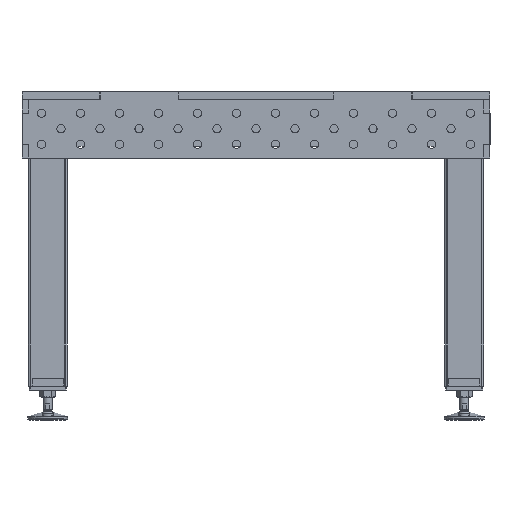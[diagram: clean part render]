
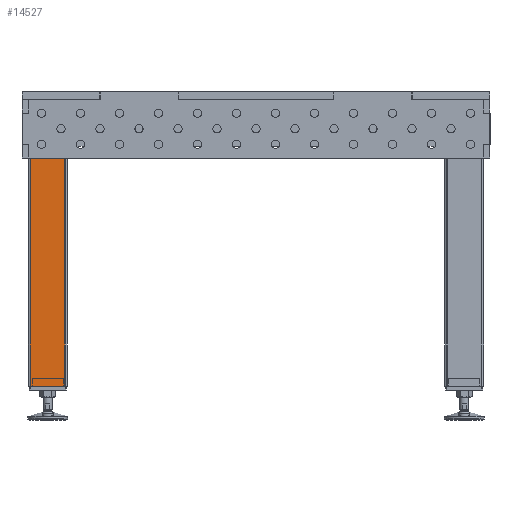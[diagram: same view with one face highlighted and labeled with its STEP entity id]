
A CAD part, left-side view. The second image highlights one B-rep face of the part: STEP entity #14527.
In plain terms, the highlighted planar face has unit normal (-1, 0, 0).
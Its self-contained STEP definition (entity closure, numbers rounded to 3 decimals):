
#951=LINE('',#23803,#1747);
#952=LINE('',#23806,#1748);
#953=LINE('',#23808,#1749);
#954=LINE('',#23809,#1750);
#1747=VECTOR('',#19908,10.);
#1748=VECTOR('',#19911,10.);
#1749=VECTOR('',#19912,10.);
#1750=VECTOR('',#19913,10.);
#2078=PLANE('',#16103);
#4020=FACE_OUTER_BOUND('',#5966,.T.);
#5966=EDGE_LOOP('',(#13056,#13057,#13058,#13059));
#8228=VERTEX_POINT('',#23799);
#8229=VERTEX_POINT('',#23801);
#8230=VERTEX_POINT('',#23805);
#8231=VERTEX_POINT('',#23807);
#9872=EDGE_CURVE('',#8228,#8229,#951,.T.);
#9873=EDGE_CURVE('',#8228,#8230,#952,.T.);
#9874=EDGE_CURVE('',#8231,#8229,#953,.T.);
#9875=EDGE_CURVE('',#8230,#8231,#954,.T.);
#13056=ORIENTED_EDGE('',*,*,#9873,.F.);
#13057=ORIENTED_EDGE('',*,*,#9872,.T.);
#13058=ORIENTED_EDGE('',*,*,#9874,.F.);
#13059=ORIENTED_EDGE('',*,*,#9875,.F.);
#14527=ADVANCED_FACE('',(#4020),#2078,.T.);
#16103=AXIS2_PLACEMENT_3D('',#23804,#19909,#19910);
#19908=DIRECTION('',(0.,0.,1.));
#19909=DIRECTION('center_axis',(-1.,0.,0.));
#19910=DIRECTION('ref_axis',(0.,-1.,0.));
#19911=DIRECTION('',(0.,1.,0.));
#19912=DIRECTION('',(0.,-1.,0.));
#19913=DIRECTION('',(0.,0.,1.));
#23799=CARTESIAN_POINT('',(0.,5.,0.));
#23801=CARTESIAN_POINT('',(0.,5.,600.));
#23803=CARTESIAN_POINT('',(0.,5.,0.));
#23804=CARTESIAN_POINT('Origin',(0.,95.,0.));
#23805=CARTESIAN_POINT('',(0.,95.,0.));
#23806=CARTESIAN_POINT('',(0.,5.,0.));
#23807=CARTESIAN_POINT('',(0.,95.,600.));
#23808=CARTESIAN_POINT('',(0.,5.,600.));
#23809=CARTESIAN_POINT('',(0.,95.,0.));
